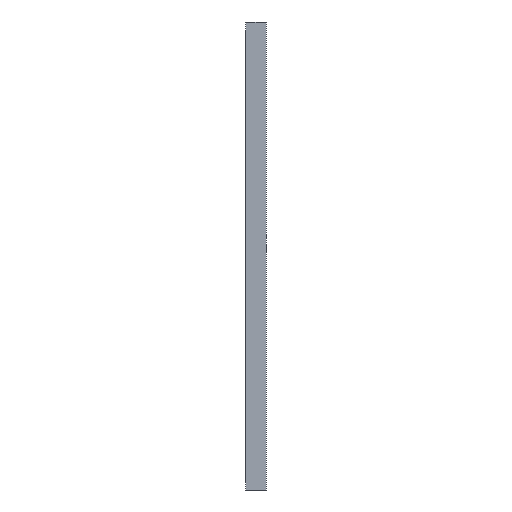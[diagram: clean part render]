
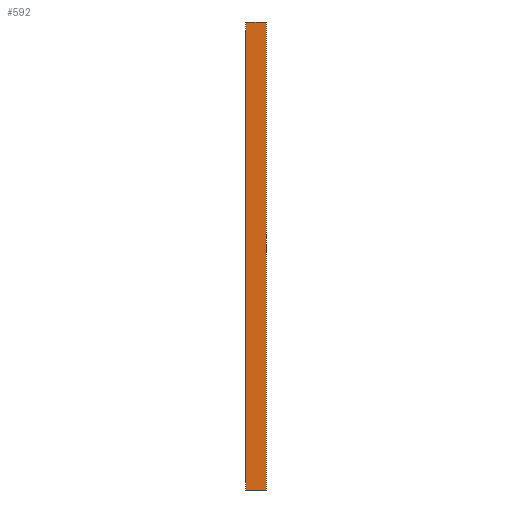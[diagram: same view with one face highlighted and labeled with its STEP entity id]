
A CAD part, left-side view. The second image highlights one B-rep face of the part: STEP entity #592.
In plain terms, the highlighted planar face has unit normal (-1, 0, 0).
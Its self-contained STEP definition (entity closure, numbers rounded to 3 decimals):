
#73 = VERTEX_POINT ( 'NONE', #1351 ) ;
#83 = EDGE_CURVE ( 'NONE', #1174, #73, #748, .T. ) ;
#89 = CARTESIAN_POINT ( 'NONE',  ( -8., 0., 0. ) ) ;
#167 = VERTEX_POINT ( 'NONE', #517 ) ;
#175 = VECTOR ( 'NONE', #615, 1000. ) ;
#193 = LINE ( 'NONE', #1293, #323 ) ;
#198 = DIRECTION ( 'NONE',  ( 0., 1., 0. ) ) ;
#207 = CARTESIAN_POINT ( 'NONE',  ( -8., 12.5, 279. ) ) ;
#214 = EDGE_CURVE ( 'NONE', #309, #553, #1141, .T. ) ;
#221 = CARTESIAN_POINT ( 'NONE',  ( -8., 0., 279. ) ) ;
#242 = VERTEX_POINT ( 'NONE', #305 ) ;
#296 = DIRECTION ( 'NONE',  ( 0., 0., -1. ) ) ;
#305 = CARTESIAN_POINT ( 'NONE',  ( -8., 0., 0. ) ) ;
#309 = VERTEX_POINT ( 'NONE', #799 ) ;
#323 = VECTOR ( 'NONE', #1412, 1000. ) ;
#325 = VECTOR ( 'NONE', #1039, 1000. ) ;
#329 = DIRECTION ( 'NONE',  ( -1., 0., 0. ) ) ;
#339 = DIRECTION ( 'NONE',  ( 0., 0., 1. ) ) ;
#355 = DIRECTION ( 'NONE',  ( 0., 0., -1. ) ) ;
#380 = AXIS2_PLACEMENT_3D ( 'NONE', #1536, #329, #339 ) ;
#381 = ORIENTED_EDGE ( 'NONE', *, *, #214, .T. ) ;
#471 = ORIENTED_EDGE ( 'NONE', *, *, #827, .F. ) ;
#483 = LINE ( 'NONE', #89, #1043 ) ;
#517 = CARTESIAN_POINT ( 'NONE',  ( -8., 9.3, 0. ) ) ;
#553 = VERTEX_POINT ( 'NONE', #1120 ) ;
#564 = LINE ( 'NONE', #1515, #1169 ) ;
#592 = ADVANCED_FACE ( 'NONE', ( #1079 ), #1190, .T. ) ;
#615 = DIRECTION ( 'NONE',  ( 0., -1., 0. ) ) ;
#654 = ORIENTED_EDGE ( 'NONE', *, *, #997, .F. ) ;
#661 = EDGE_CURVE ( 'NONE', #553, #1174, #1270, .T. ) ;
#666 = CARTESIAN_POINT ( 'NONE',  ( -8., 12.5, 279. ) ) ;
#675 = EDGE_CURVE ( 'NONE', #167, #73, #483, .T. ) ;
#710 = DIRECTION ( 'NONE',  ( 0., 1., 0. ) ) ;
#744 = ORIENTED_EDGE ( 'NONE', *, *, #83, .T. ) ;
#748 = LINE ( 'NONE', #990, #1138 ) ;
#799 = CARTESIAN_POINT ( 'NONE',  ( -8., 3.2, 279. ) ) ;
#827 = EDGE_CURVE ( 'NONE', #1335, #242, #564, .T. ) ;
#865 = VECTOR ( 'NONE', #198, 1000. ) ;
#885 = DIRECTION ( 'NONE',  ( 0., 1., 0. ) ) ;
#968 = LINE ( 'NONE', #1200, #175 ) ;
#990 = CARTESIAN_POINT ( 'NONE',  ( -8., 12.5, 279. ) ) ;
#997 = EDGE_CURVE ( 'NONE', #1143, #167, #1373, .T. ) ;
#1030 = ORIENTED_EDGE ( 'NONE', *, *, #1397, .T. ) ;
#1039 = DIRECTION ( 'NONE',  ( 0., 1., 0. ) ) ;
#1043 = VECTOR ( 'NONE', #710, 1000. ) ;
#1044 = CARTESIAN_POINT ( 'NONE',  ( -8., 3.2, 0. ) ) ;
#1079 = FACE_OUTER_BOUND ( 'NONE', #1182, .T. ) ;
#1097 = VECTOR ( 'NONE', #885, 1000. ) ;
#1120 = CARTESIAN_POINT ( 'NONE',  ( -8., 9.3, 279. ) ) ;
#1138 = VECTOR ( 'NONE', #296, 1000. ) ;
#1141 = LINE ( 'NONE', #1250, #865 ) ;
#1143 = VERTEX_POINT ( 'NONE', #1044 ) ;
#1153 = EDGE_CURVE ( 'NONE', #309, #1335, #193, .T. ) ;
#1169 = VECTOR ( 'NONE', #355, 1000. ) ;
#1174 = VERTEX_POINT ( 'NONE', #666 ) ;
#1182 = EDGE_LOOP ( 'NONE', ( #654, #1030, #471, #1221, #381, #1516, #744, #1438 ) ) ;
#1190 = PLANE ( 'NONE',  #380 ) ;
#1200 = CARTESIAN_POINT ( 'NONE',  ( -8., 0., 0. ) ) ;
#1221 = ORIENTED_EDGE ( 'NONE', *, *, #1153, .F. ) ;
#1248 = CARTESIAN_POINT ( 'NONE',  ( -8., 0., 0. ) ) ;
#1250 = CARTESIAN_POINT ( 'NONE',  ( -8., 0., 279. ) ) ;
#1270 = LINE ( 'NONE', #207, #325 ) ;
#1293 = CARTESIAN_POINT ( 'NONE',  ( -8., 0., 279. ) ) ;
#1335 = VERTEX_POINT ( 'NONE', #221 ) ;
#1351 = CARTESIAN_POINT ( 'NONE',  ( -8., 12.5, 0. ) ) ;
#1373 = LINE ( 'NONE', #1248, #1097 ) ;
#1397 = EDGE_CURVE ( 'NONE', #1143, #242, #968, .T. ) ;
#1412 = DIRECTION ( 'NONE',  ( 0., -1., 0. ) ) ;
#1438 = ORIENTED_EDGE ( 'NONE', *, *, #675, .F. ) ;
#1515 = CARTESIAN_POINT ( 'NONE',  ( -8., 0., 279. ) ) ;
#1516 = ORIENTED_EDGE ( 'NONE', *, *, #661, .T. ) ;
#1536 = CARTESIAN_POINT ( 'NONE',  ( -8., 0., 279. ) ) ;
